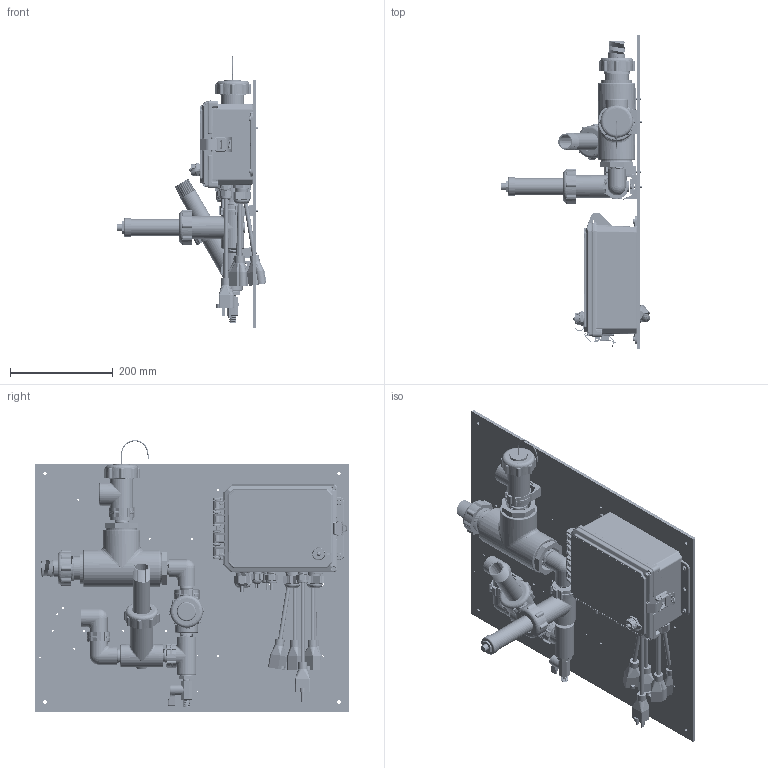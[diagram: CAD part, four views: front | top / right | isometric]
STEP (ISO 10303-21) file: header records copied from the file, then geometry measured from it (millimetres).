
FILE_DESCRIPTION (( 'STEP AP203' ), '1' );
FILE_NAME ('W600-CT-HH.STEP', '2018-03-09T17:56:38', ( '' ), ( '' ), 'SwSTEP 2.0', 'SolidWorks 2016', '' );
FILE_SCHEMA (( 'CONFIG_CONTROL_DESIGN' ));
Length unit declared in the file: inch
Products named in the file (77): IMC0003; ISA0029; 102407; IMS0013; IMS0030; IMS0012; 103807; 103867; IMS0010; ISA0016; IMS0011_4882K14; 9912576-82-10; 103938; PCG-11 nut; ISA0014; IMC0002; 103946; 103859_Cord1; W600-CT-HH; 9912575-82-10_90631A007; 191619-01; W600 Shell; IMS0006; IMC0011; 100101_USB; IMC0004; 191577-INTEGRA; 103910; ISA0020; IMC0001; 103832; IMS0031; ISA0026; IMS0044; ISA0017; 9912562-82-10; ISA0022; 191584; IMS0003_4880K345; IMS0023_30075T212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
Assembly tree (123 placements, depth 4):
  W600-CT-HH
    ISA0023
      IMS0013
      IMS0012
    IMS0002
    IMS0003_4880K345
    IMS0011_4882K14  x7
    IMC0004  x2
    IMS0020  x3
    IMS0044
    IMS0043  x2
    IMC0013
    IMC0001  x4
    IMC0002
    ISA0026
      IMC0003
      IMS0010
      IMS0006
      ISA0025
        IMC0006
        IMS0029  x2
    ISA0037
      IMC0011
      IMC0012
    IMS0033
    IMS0005
    IMS0006  x3
    ISA0029
      IMS0030
      IMS0031
      IMC0005
    IMS0023_30075T212  x2
    IMS0019_30075T211  x2
    IMR0003
    W600 Shell
      ISA0011
        191576-INTERGRA
        1032_375H_insert  x2
        9912562-82-10
        9912571-82-10_95345A043  x2
        9912575-82-10_90631A007  x2
        102444
        9912576-82-10  x2
      191577-INTEGRA
      191584
      ISA0018_3 Wire  x2
        102907
        102903_102903
        102906
        103860_Cord1
        103861_without letter
      ISA0017
        103938
        103859_Cord1
        PCG-11 nut
      ISA0020
        102907
        103025  x6
        103004
        102903_102903
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Bounding box: 289.71 x 609.6 x 528.11 mm (x, y, z)
Volume: 4650237.8 mm3; surface area: 1985508.8 mm2
Topology: 132 solids, 144 shells, 17164 faces, 44533 edges, 27880 vertices
Faces by surface type: plane 8501, cylinder 4381, bspline 2667, cone 1241, torus 290, sphere 84
Entity records: 612667 total; most frequent: CARTESIAN_POINT 305485, ORIENTED_EDGE 67601, DIRECTION 53550, EDGE_CURVE 33816, VERTEX_POINT 21333, LINE 20150, VECTOR 20150, AXIS2_PLACEMENT_3D 16700
